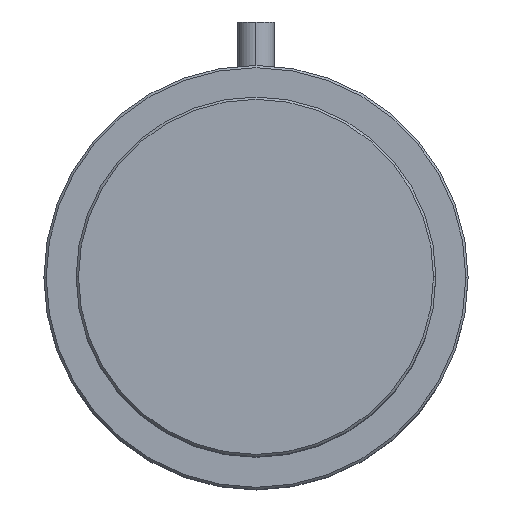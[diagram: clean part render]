
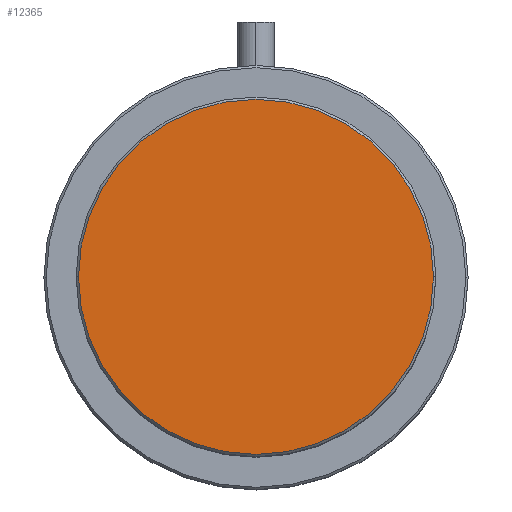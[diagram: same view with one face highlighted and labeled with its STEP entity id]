
A CAD part, top view. The second image highlights one B-rep face of the part: STEP entity #12365.
In plain terms, the highlighted planar face has unit normal (0, 0, 1).
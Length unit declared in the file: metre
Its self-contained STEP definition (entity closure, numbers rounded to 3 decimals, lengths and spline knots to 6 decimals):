
#6234 = AXIS2_PLACEMENT_3D ( 'NONE', #35071, #23957, #37604 ) ;
#9953 = CARTESIAN_POINT ( 'NONE',  ( 0.0385, 0., 0. ) ) ;
#10537 = CARTESIAN_POINT ( 'NONE',  ( -0.0385, 0., 0. ) ) ;
#11904 = CARTESIAN_POINT ( 'NONE',  ( 0., 0., 0. ) ) ;
#12365 = ADVANCED_FACE ( 'NONE', ( #14154 ), #18005, .F. ) ;
#14154 = FACE_OUTER_BOUND ( 'NONE', #30548, .T. ) ;
#15840 = EDGE_CURVE ( 'NONE', #41961, #32661, #17825, .T. ) ;
#17204 = CIRCLE ( 'NONE', #22226, 0.0385 ) ;
#17825 = CIRCLE ( 'NONE', #6234, 0.0385 ) ;
#18005 = PLANE ( 'NONE',  #37915 ) ;
#19741 = EDGE_CURVE ( 'NONE', #32661, #41961, #17204, .T. ) ;
#22226 = AXIS2_PLACEMENT_3D ( 'NONE', #11904, #40273, #36593 ) ;
#23188 = ORIENTED_EDGE ( 'NONE', *, *, #15840, .T. ) ;
#23754 = CARTESIAN_POINT ( 'NONE',  ( 0., 0.039, 0. ) ) ;
#23957 = DIRECTION ( 'NONE',  ( 0., 0., 1. ) ) ;
#24806 = DIRECTION ( 'NONE',  ( -1., 0., 0. ) ) ;
#30548 = EDGE_LOOP ( 'NONE', ( #23188, #33664 ) ) ;
#32661 = VERTEX_POINT ( 'NONE', #9953 ) ;
#33664 = ORIENTED_EDGE ( 'NONE', *, *, #19741, .T. ) ;
#35071 = CARTESIAN_POINT ( 'NONE',  ( 0., 0., 0. ) ) ;
#36593 = DIRECTION ( 'NONE',  ( -1., 0., 0. ) ) ;
#37604 = DIRECTION ( 'NONE',  ( -1., 0., 0. ) ) ;
#37915 = AXIS2_PLACEMENT_3D ( 'NONE', #23754, #41036, #24806 ) ;
#40273 = DIRECTION ( 'NONE',  ( 0., 0., 1. ) ) ;
#41036 = DIRECTION ( 'NONE',  ( 0., 0., -1. ) ) ;
#41961 = VERTEX_POINT ( 'NONE', #10537 ) ;
